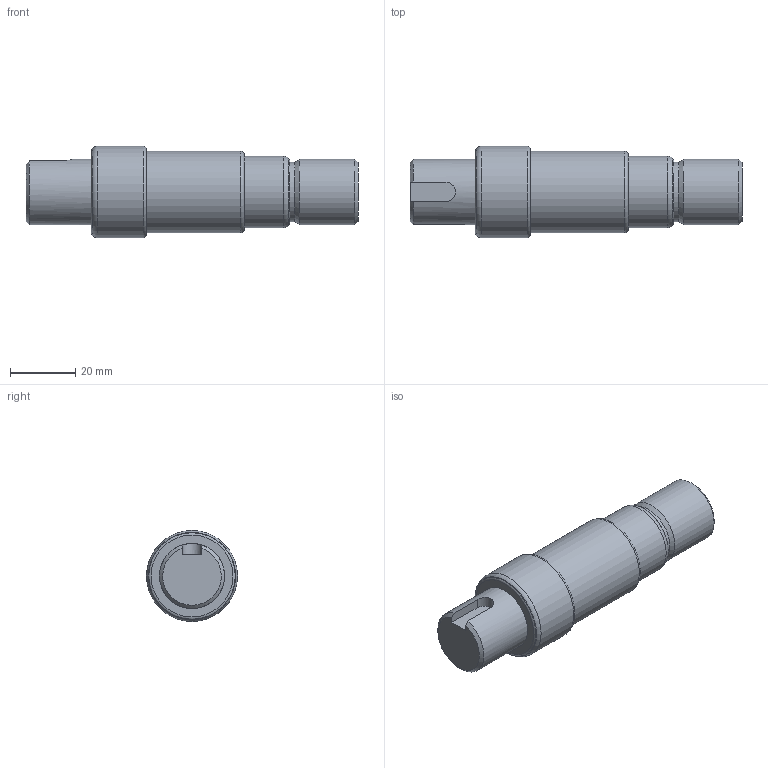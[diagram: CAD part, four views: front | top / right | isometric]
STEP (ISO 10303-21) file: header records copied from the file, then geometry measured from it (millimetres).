
FILE_DESCRIPTION(/* description */ (''),/* implementation_level */ '2;1');
FILE_NAME(/* name */ 'C:\Users\NET\Desktop\601003E1014\601003E1014-축.stp',/* time_stamp */ '2020-10-17T10:52:28+09:00',/* author */ ('NET'),/* organization */ (''),/* preprocessor_version */ 'ST-DEVELOPER v15.2',/* originating_system */ 'Autodesk Inventor 2014',/* authorisation */ '');
FILE_SCHEMA (('AUTOMOTIVE_DESIGN { 1 0 10303 214 3 1 1 }'));
Length unit declared in the file: millimetre
Products named in the file (1): 부품1
Bounding box: 102 x 28 x 28 mm (x, y, z)
Volume: 42811.6 mm3; surface area: 8514.3 mm2
Topology: 1 solids, 1 shells, 29 faces, 58 edges, 35 vertices
Faces by surface type: plane 9, cylinder 8, cone 7, torus 5
Full cylindrical faces by diameter (mm): 2 x1, 18.4 x1, 20 x2, 22 x1, 25 x1, 28 x1
Entity records: 674 total; most frequent: CARTESIAN_POINT 123, DIRECTION 119, ORIENTED_EDGE 76, AXIS2_PLACEMENT_3D 55, EDGE_LOOP 51, EDGE_CURVE 38, VERTEX_POINT 33, ADVANCED_FACE 29
